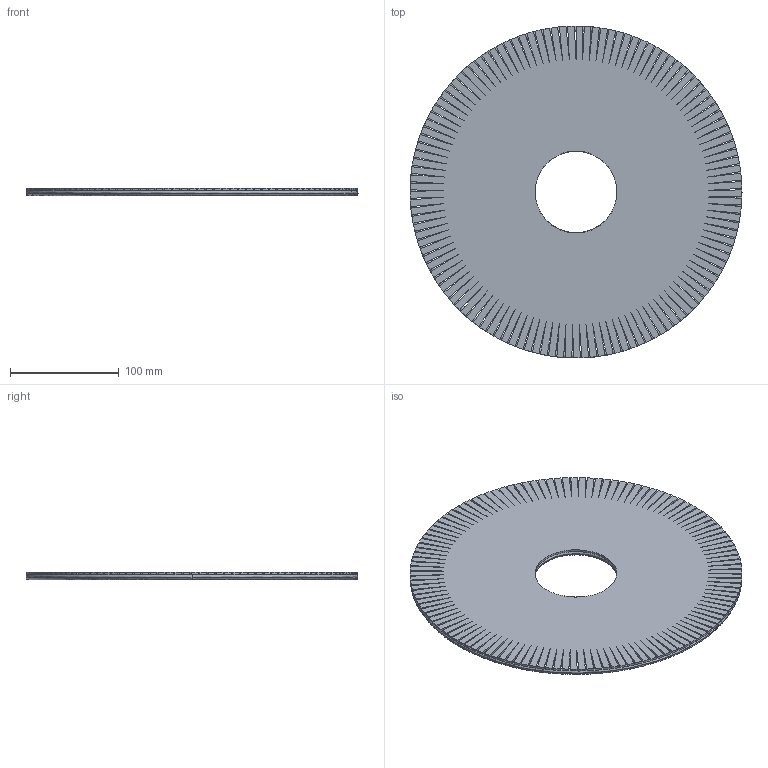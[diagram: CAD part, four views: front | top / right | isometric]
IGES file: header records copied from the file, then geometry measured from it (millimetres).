
Start section: SolidWorks IGES file using analytic representation for surfaces
Global section: file name: \\ARNOLD\compartida\Nueva Coleccion Septiembre 2026\WIND_1128\WIND 300\3D\WIND 300.IGS; native system: SolidWorks 2023; preprocessor: SolidWorks 2023; author: adrian; date: 260827.152130; units: millimetre
Bounding box: 305 x 304.98 x 7 mm (x, y, z)
Surface area: 167331.9 mm2 (no closed solid volume)
Topology: 0 solids, 0 shells, 635 faces, 3782 edges, 3782 vertices
Faces by surface type: bspline 635
